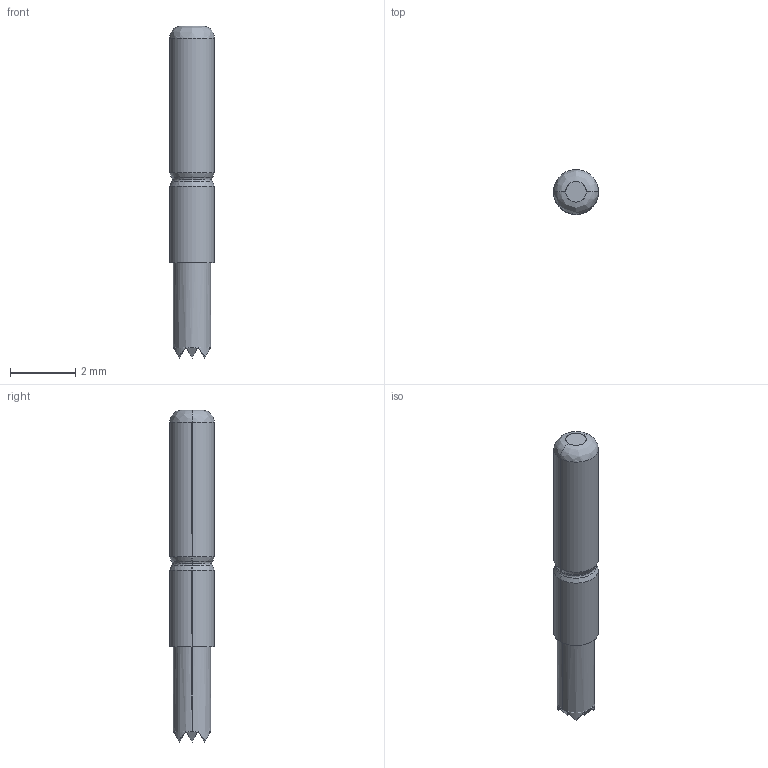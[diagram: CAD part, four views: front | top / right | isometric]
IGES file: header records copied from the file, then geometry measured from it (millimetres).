
Start section: SolidWorks IGES file using analytic representation for surfaces
Global section: file name: F:\OneDrive\Desktop\Coda\28.6\Front Fitment Completed\PC6 RTP\PC6H-1.1.IGS; native system: SolidWorks 2021; preprocessor: SolidWorks 2021; author: Georg; date: 210707.165101; units: millimetre
Bounding box: 1.37 x 1.37 x 10.16 mm (x, y, z)
Surface area: 44.1 mm2 (no closed solid volume)
Topology: 0 solids, 0 shells, 54 faces, 270 edges, 270 vertices
Faces by surface type: bspline 48, revolution 6
